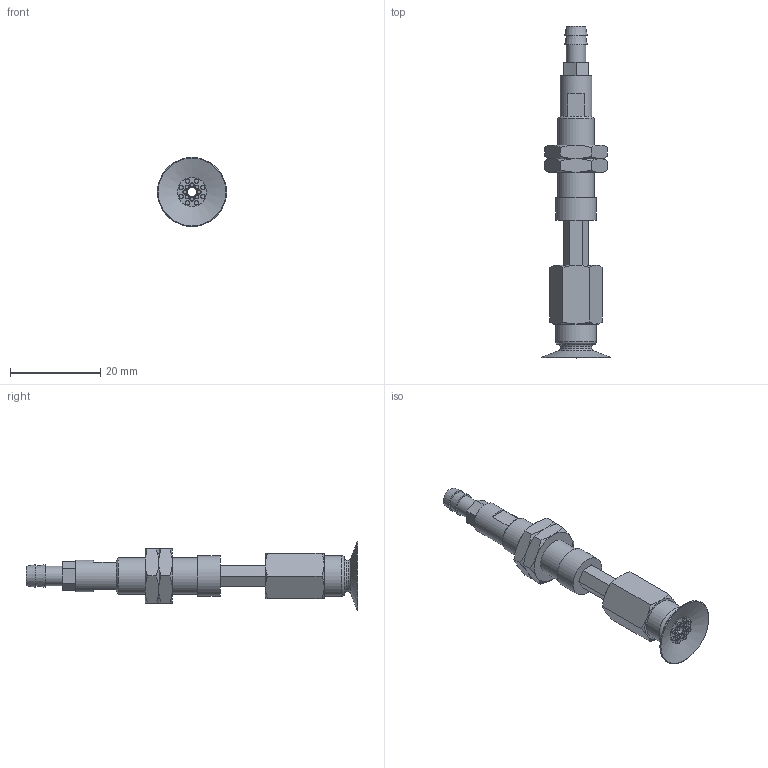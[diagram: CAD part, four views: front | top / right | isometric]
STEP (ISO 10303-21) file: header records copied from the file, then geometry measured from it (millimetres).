
FILE_DESCRIPTION(('STEP AP203'),'1');
FILE_NAME('-T.stp','2025-08-21T07:57:47',(' '),(' '),'Spatial InterOp 3D',' ',' ');
FILE_SCHEMA(('CONFIG_CONTROL_DESIGN'));
Length unit declared in the file: millimetre
Products named in the file (7): BNABPATH-15A-10-※-T; NAPATH-10A-10--F; Nut-10A-S; CONNECTOR-10A-3-T-PA; BPAG-15A-※; ADAPTER; NAPATH-10A-10--M
Assembly tree (7 placements, depth 2):
  BNABPATH-15A-10-※-T
    NAPATH-10A-10--F
    Nut-10A-S  x2
    CONNECTOR-10A-3-T-PA
    BPAG-15A-※
    ADAPTER
    NAPATH-10A-10--M
Bounding box: 15.3 x 73.5 x 15.3 mm (x, y, z)
Volume: 3699.3 mm3; surface area: 4746 mm2
Topology: 7 solids, 7 shells, 172 faces, 346 edges, 215 vertices
Faces by surface type: plane 81, cone 48, cylinder 34, torus 9
Full cylindrical faces by diameter (mm): 0.9 x16, 2 x3, 3 x1, 4 x2, 4.134 x1, 4.3 x1, 5 x1, 6 x2, 7 x2, 7.188 x2, 8 x1, 9 x2
Entity records: 4082 total; most frequent: CARTESIAN_POINT 861, DIRECTION 616, ORIENTED_EDGE 474, AXIS2_PLACEMENT_3D 270, EDGE_LOOP 240, EDGE_CURVE 237, FACE_OUTER_BOUND 191, VERTEX_POINT 179
